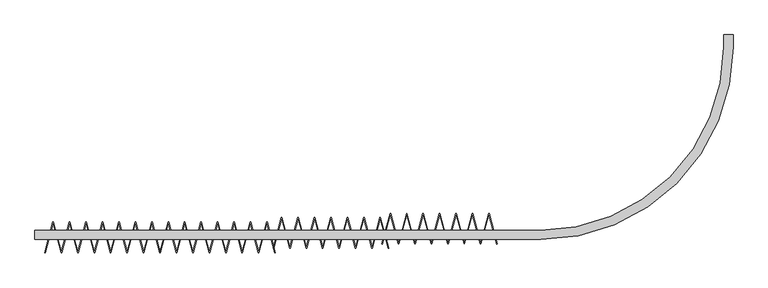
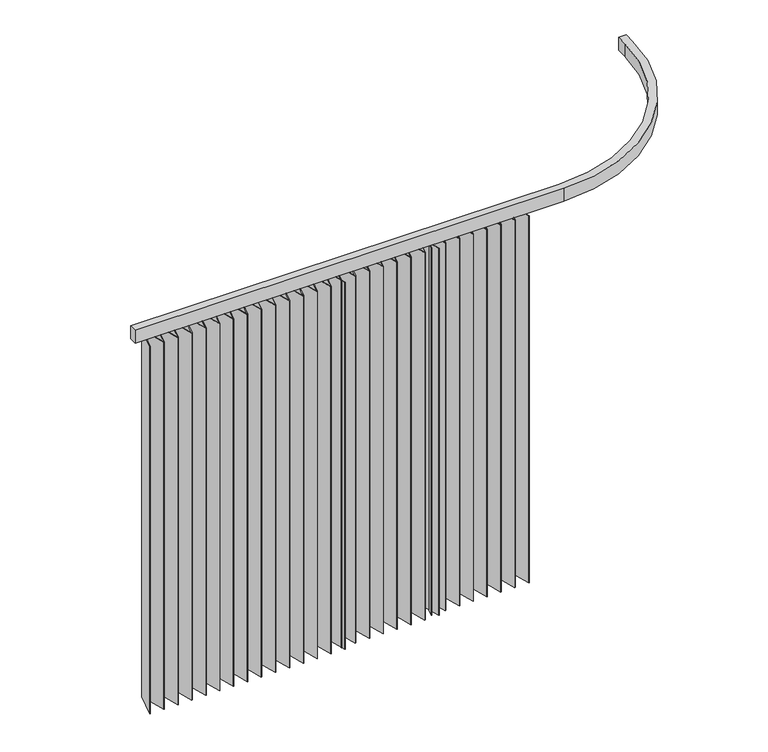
"""IFC4 building model written with IfcOpenShell, lengths in millimetres: furniture geometry, BIMHealth-Curtain_Bed-LOD2A-v1 : BIMHealth-Curtain_Bed-LOD2A-v1."""

from ifc_helpers import new_model, si_unit, point, frame, frame_2d, origin, place, context, project, spatial, polyline, circle_curve, trimmed, segment, composite_curve, outline, extrude, source, transform, mapped, element, save


def furniture_53b4b269(model_context):
    return source(origin(), model_context, "Body", "SweptSolid", [
        extrude(outline(polyline([(130.945283, 76.2443007), (133.0158353, 76.2443007), (167.843578, -53.7346046), (202.6713208, 76.2443007), (204.7418731, 76.2443007), (239.5696158, -53.7346046), (274.3973585, 76.2443007), (276.4679109, 76.2443007), (311.2956536, -53.7346046), (346.1233963, 76.2443007), (348.1939487, 76.2443007), (383.0216914, -53.7346046), (417.8494341, 76.2443007), (419.9199864, 76.2443007), (454.7477291, -53.7346046), (489.5754718, 76.2443007), (491.6460242, 76.2443007), (526.4737669, -53.7346046), (561.3015096, 76.2443007), (563.372062, 76.2443007), (599.2350809, -57.5983079), (597.3032292, -58.115946), (562.3367858, 72.3805974), (527.5090431, -57.5983079), (525.4384907, -57.5983079), (490.610748, 72.3805974), (455.7830053, -57.5983079), (453.712453, -57.5983079), (418.8847103, 72.3805974), (384.0569675, -57.5983079), (381.9864152, -57.5983079), (347.1586725, 72.3805974), (312.3309298, -57.5983079), (310.2603774, -57.5983079), (275.4326347, 72.3805974), (240.604892, -57.5983079), (238.5343396, -57.5983079), (203.7065969, 72.3805974), (168.8788542, -57.5983079), (166.8083019, -57.5983079), (131.9805592, 72.3805974), (97.0141157, -58.115946), (95.0822641, -57.5983079), (130.945283, 76.2443007)])), frame((0.0, 0.0, 100.0), z_axis=(0.0, 0.0, 1.0), x_axis=(1.0, 0.0, 0.0)), (0.0, 0.0, 1.0), 2000.0),
        extrude(outline(polyline([(1128.1625419, 95.5463173), (1130.2330943, 95.5463173), (1165.060837, -34.432588), (1199.8885797, 95.5463173), (1201.959132, 95.5463173), (1236.7868747, -34.432588), (1271.6146174, 95.5463173), (1273.6851698, 95.5463173), (1308.5129125, -34.432588), (1343.3406552, 95.5463173), (1345.4112076, 95.5463173), (1380.2389503, -34.432588), (1415.066693, 95.5463173), (1417.1372454, 95.5463173), (1451.9649881, -34.432588), (1486.7927308, 95.5463173), (1488.8632831, 95.5463173), (1523.6910258, -34.432588), (1558.5187685, 95.5463173), (1560.5893209, 95.5463173), (1596.4523398, -38.2962913), (1594.5204881, -38.8139294), (1559.5540447, 91.682614), (1524.726302, -38.2962913), (1522.6557497, -38.2962913), (1487.8280069, 91.682614), (1453.0002642, -38.2962913), (1450.9297119, -38.2962913), (1416.1019692, 91.682614), (1381.2742265, -38.2962913), (1379.2036741, -38.2962913), (1344.3759314, 91.682614), (1309.5481887, -38.2962913), (1307.4776363, -38.2962913), (1272.6498936, 91.682614), (1237.8221509, -38.2962913), (1235.7515986, -38.2962913), (1200.9238559, 91.682614), (1166.0961131, -38.2962913), (1164.0255608, -38.2962913), (1129.1978181, 91.682614), (1094.2313747, -38.8139294), (1092.299523, -38.2962913), (1128.1625419, 95.5463173)])), frame((0.0, 0.0, 100.0), z_axis=(0.0, 0.0, 1.0), x_axis=(1.0, 0.0, 0.0)), (0.0, 0.0, 1.0), 2000.0),
        extrude(outline(polyline([(633.3005277, 76.2278008), (635.37108, 76.2278008), (670.1988227, -53.7511045), (705.0265654, 76.2278008), (707.0971178, 76.2278008), (741.9248605, -53.7511045), (776.7526032, 76.2278008), (778.8231556, 76.2278008), (813.6508983, -53.7511045), (848.478641, 76.2278008), (850.5491933, 76.2278008), (885.3769361, -53.7511045), (920.2046788, 76.2278008), (922.2752311, 76.2278008), (957.1029738, -53.7511045), (991.9307165, 76.2278008), (994.0012689, 76.2278008), (1028.8290116, -53.7511045), (1063.6567543, 76.2278008), (1065.7273067, 76.2278008), (1101.5903256, -57.6148078), (1099.6584739, -58.1324459), (1064.6920305, 72.3640975), (1029.8642878, -57.6148078), (1027.7937354, -57.6148078), (992.9659927, 72.3640975), (958.13825, -57.6148078), (956.0676976, -57.6148078), (921.2399549, 72.3640975), (886.4122122, -57.6148078), (884.3416599, -57.6148078), (849.5139172, 72.3640975), (814.6861745, -57.6148078), (812.6156221, -57.6148078), (777.7878794, 72.3640975), (742.9601367, -57.6148078), (740.8895843, -57.6148078), (706.0618416, 72.3640975), (671.2340989, -57.6148078), (669.1635466, -57.6148078), (634.3358038, 72.3640975), (599.3693604, -58.1324459), (597.4375088, -57.6148078), (633.3005277, 76.2278008)])), frame((0.0, 0.0, 100.0), z_axis=(0.0, 0.0, 1.0), x_axis=(1.0, 0.0, 0.0)), (0.0, 0.0, 1.0), 2000.0),
        extrude(outline(composite_curve([segment(trimmed(circle_curve(frame_2d((2260.0, 840.0)), 800.0), [point((2260.0, 40.0))], [point((3060.0, 840.0))], True, "CARTESIAN"), True, "CONTINUOUS"), segment(polyline([(3060.0, 840.0), (3060.0, 894.7276126), (3100.0, 894.7276126), (3100.0, 840.0)]), True, "CONTINUOUS"), segment(trimmed(circle_curve(frame_2d((2260.0, 840.0)), 840.0), [point((3100.0, 840.0))], [point((2260.0, 0.0))], False, "CARTESIAN"), True, "CONTINUOUS"), segment(polyline([(2260.0, 0.0), (52.0525168, 0.0), (52.0525168, 40.0), (2260.0, 40.0)]), True, "CONTINUOUS")], self_intersect=False)), frame((0.0, 0.0, 2100.0), z_axis=(0.0, 0.0, 1.0), x_axis=(1.0, 0.0, 0.0)), (0.0, 0.0, 1.0), 70.0),
        extrude(outline(polyline([(1602.5929369, 113.8426086), (1604.6634893, 113.8426086), (1639.491232, -16.1362967), (1674.3189747, 113.8426086), (1676.3895271, 113.8426086), (1711.2172698, -16.1362967), (1746.0450125, 113.8426086), (1748.1155649, 113.8426086), (1782.9433076, -16.1362967), (1817.7710503, 113.8426086), (1819.8416026, 113.8426086), (1854.6693453, -16.1362967), (1889.497088, 113.8426086), (1891.5676404, 113.8426086), (1926.3953831, -16.1362967), (1961.2231258, 113.8426086), (1963.2936782, 113.8426086), (1998.1214209, -16.1362967), (2032.9491636, 113.8426086), (2035.0197159, 113.8426086), (2070.8827348, -20.0), (2068.9508832, -20.5176381), (2033.9844398, 109.9789053), (1999.1566971, -20.0), (1997.0861447, -20.0), (1962.258402, 109.9789053), (1927.4306593, -20.0), (1925.3601069, -20.0), (1890.5323642, 109.9789053), (1855.7046215, -20.0), (1853.6340692, -20.0), (1818.8063264, 109.9789053), (1783.9785837, -20.0), (1781.9080314, -20.0), (1747.0802887, 109.9789053), (1712.252546, -20.0), (1710.1819936, -20.0), (1675.3542509, 109.9789053), (1640.5265082, -20.0), (1638.4559558, -20.0), (1603.6282131, 109.9789053), (1568.6617697, -20.5176381), (1566.7299181, -20.0), (1602.5929369, 113.8426086)])), frame((0.0, 0.0, 100.0), z_axis=(0.0, 0.0, 1.0), x_axis=(1.0, 0.0, 0.0)), (0.0, 0.0, 1.0), 2000.0),
    ])


if __name__ == "__main__":
    model = new_model("IFC4")
    model_context = context("Model", 3, world=origin())
    ifc_project = project(units=[si_unit("LENGTHUNIT", "METRE", prefix="MILLI")], contexts=[model_context])
    site = spatial("IfcSite", under=ifc_project)
    building = spatial("IfcBuilding", under=site)
    placement = place(None, origin())
    furniture_shape = furniture_53b4b269(model_context)
    element("IfcFurniture", 1, ObjectType="BIMHealth-Curtain_Bed-LOD2A-v1 : BIMHealth-Curtain_Bed-LOD2A-v1", at=placement, inside=building, context=model_context, shape_type="MappedRepresentation", body=[
        mapped(furniture_shape, transform((0.0, 0.0, 0.0), x_axis=(1.0, 0.0, 0.0), y_axis=(0.0, 1.0, 0.0), z_axis=(0.0, 0.0, 1.0))),
    ])
    save(model, "model.ifc")
